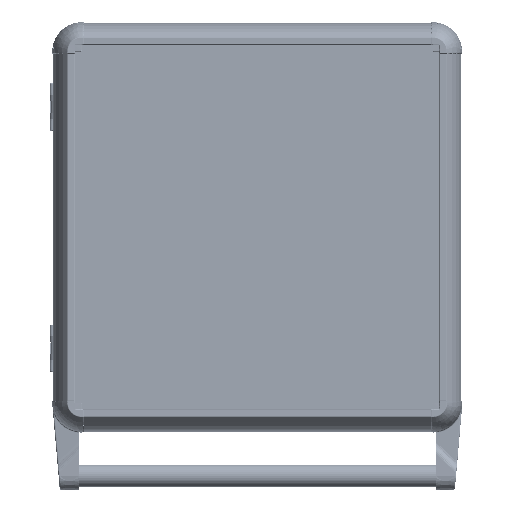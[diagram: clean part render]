
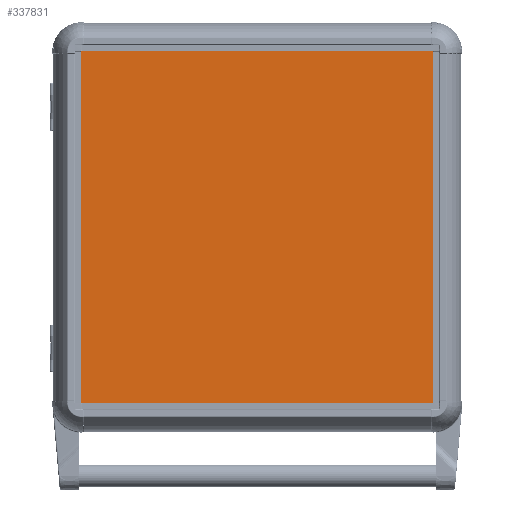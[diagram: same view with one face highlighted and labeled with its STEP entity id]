
A CAD part, top view. The second image highlights one B-rep face of the part: STEP entity #337831.
In plain terms, the highlighted planar face has unit normal (0, 0, 1).
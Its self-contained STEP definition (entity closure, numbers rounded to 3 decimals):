
#5560 = DIRECTION ( 'NONE',  ( 0., -1., 0. ) ) ;
#16866 = PLANE ( 'NONE',  #218284 ) ;
#64519 = CARTESIAN_POINT ( 'NONE',  ( 150., -150., 2. ) ) ;
#67535 = EDGE_CURVE ( 'NONE', #296106, #130568, #248750, .T. ) ;
#72358 = DIRECTION ( 'NONE',  ( 1., 0., 0. ) ) ;
#89027 = ORIENTED_EDGE ( 'NONE', *, *, #174306, .T. ) ;
#91053 = CARTESIAN_POINT ( 'NONE',  ( 150., 150., 2. ) ) ;
#102585 = LINE ( 'NONE', #206027, #353573 ) ;
#104334 = LINE ( 'NONE', #268464, #343061 ) ;
#118841 = EDGE_LOOP ( 'NONE', ( #217781, #205728, #192473, #89027 ) ) ;
#127496 = VECTOR ( 'NONE', #5560, 1000. ) ;
#130568 = VERTEX_POINT ( 'NONE', #295376 ) ;
#155696 = DIRECTION ( 'NONE',  ( 0., 1., 0. ) ) ;
#161126 = VERTEX_POINT ( 'NONE', #358785 ) ;
#173799 = CARTESIAN_POINT ( 'NONE',  ( -150., -150., 2. ) ) ;
#174306 = EDGE_CURVE ( 'NONE', #328168, #296106, #102585, .T. ) ;
#192473 = ORIENTED_EDGE ( 'NONE', *, *, #366743, .T. ) ;
#205728 = ORIENTED_EDGE ( 'NONE', *, *, #386498, .T. ) ;
#206027 = CARTESIAN_POINT ( 'NONE',  ( -150., -150., 2. ) ) ;
#217781 = ORIENTED_EDGE ( 'NONE', *, *, #67535, .T. ) ;
#218284 = AXIS2_PLACEMENT_3D ( 'NONE', #412367, #414531, #377895 ) ;
#248750 = LINE ( 'NONE', #91053, #268040 ) ;
#268040 = VECTOR ( 'NONE', #155696, 1000. ) ;
#268464 = CARTESIAN_POINT ( 'NONE',  ( -150., 150., 2. ) ) ;
#272715 = DIRECTION ( 'NONE',  ( -1., 0., 0. ) ) ;
#276060 = FACE_OUTER_BOUND ( 'NONE', #118841, .T. ) ;
#295376 = CARTESIAN_POINT ( 'NONE',  ( 150., 150., 2. ) ) ;
#296106 = VERTEX_POINT ( 'NONE', #64519 ) ;
#301448 = LINE ( 'NONE', #403264, #127496 ) ;
#328168 = VERTEX_POINT ( 'NONE', #173799 ) ;
#337831 = ADVANCED_FACE ( 'NONE', ( #276060 ), #16866, .T. ) ;
#343061 = VECTOR ( 'NONE', #272715, 1000. ) ;
#353573 = VECTOR ( 'NONE', #72358, 1000. ) ;
#358785 = CARTESIAN_POINT ( 'NONE',  ( -150., 150., 2. ) ) ;
#366743 = EDGE_CURVE ( 'NONE', #161126, #328168, #301448, .T. ) ;
#377895 = DIRECTION ( 'NONE',  ( 1., 0., 0. ) ) ;
#386498 = EDGE_CURVE ( 'NONE', #130568, #161126, #104334, .T. ) ;
#403264 = CARTESIAN_POINT ( 'NONE',  ( -150., 150., 2. ) ) ;
#412367 = CARTESIAN_POINT ( 'NONE',  ( 0., 0., 2. ) ) ;
#414531 = DIRECTION ( 'NONE',  ( 0., 0., 1. ) ) ;
